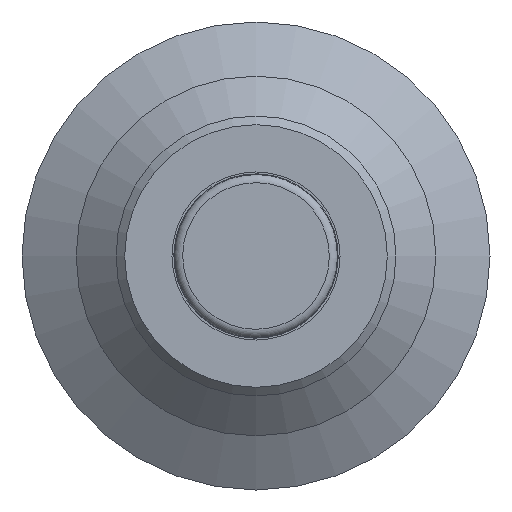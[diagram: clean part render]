
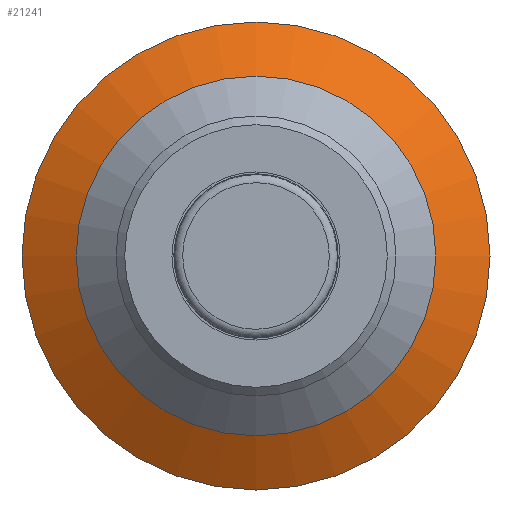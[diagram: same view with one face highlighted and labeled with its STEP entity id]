
A CAD part, front view. The second image highlights one B-rep face of the part: STEP entity #21241.
In plain terms, the highlighted conical face has half-angle 60 degrees and reference radius 11.938 mm.
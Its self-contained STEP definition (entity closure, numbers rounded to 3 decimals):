
#784=CONICAL_SURFACE('',#21984,11.938,1.047);
#2199=FACE_OUTER_BOUND('',#3340,.T.);
#3340=EDGE_LOOP('',(#18989,#18990,#18991,#18992));
#5141=CIRCLE('',#21818,13.5);
#5195=CIRCLE('',#21983,10.375);
#6409=LINE('',#47449,#7623);
#7623=VECTOR('',#24640,11.938);
#9209=VERTEX_POINT('',#38474);
#9683=VERTEX_POINT('',#47445);
#11859=EDGE_CURVE('',#9209,#9209,#5141,.T.);
#12784=EDGE_CURVE('',#9683,#9683,#5195,.T.);
#12786=EDGE_CURVE('',#9209,#9683,#6409,.T.);
#18989=ORIENTED_EDGE('',*,*,#11859,.F.);
#18990=ORIENTED_EDGE('',*,*,#12786,.T.);
#18991=ORIENTED_EDGE('',*,*,#12784,.T.);
#18992=ORIENTED_EDGE('',*,*,#12786,.F.);
#21241=ADVANCED_FACE('',(#2199),#784,.T.);
#21818=AXIS2_PLACEMENT_3D('',#38476,#23834,#23835);
#21983=AXIS2_PLACEMENT_3D('',#47446,#24635,#24636);
#21984=AXIS2_PLACEMENT_3D('',#47448,#24638,#24639);
#23834=DIRECTION('center_axis',(0.,1.,0.));
#23835=DIRECTION('ref_axis',(1.,0.,0.));
#24635=DIRECTION('center_axis',(0.,1.,0.));
#24636=DIRECTION('ref_axis',(1.,0.,0.));
#24638=DIRECTION('center_axis',(0.,1.,0.));
#24639=DIRECTION('ref_axis',(-1.,0.,0.));
#24640=DIRECTION('',(-0.866,-0.5,0.));
#38474=CARTESIAN_POINT('',(13.5,2.804,0.));
#38476=CARTESIAN_POINT('Origin',(0.,2.804,0.));
#47445=CARTESIAN_POINT('',(10.375,1.,0.));
#47446=CARTESIAN_POINT('Origin',(0.,1.,0.));
#47448=CARTESIAN_POINT('Origin',(0.,1.902,0.));
#47449=CARTESIAN_POINT('',(11.938,1.902,0.));
